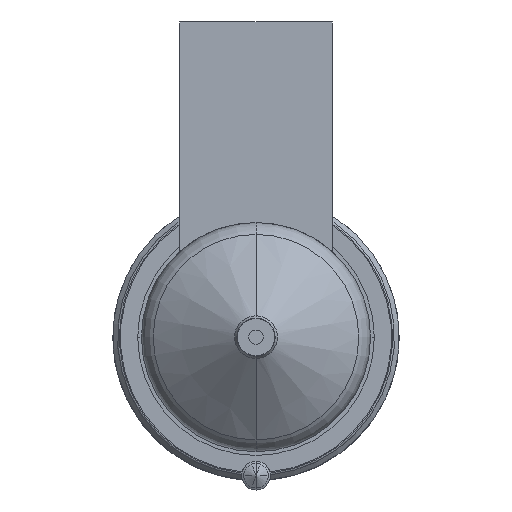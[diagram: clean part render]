
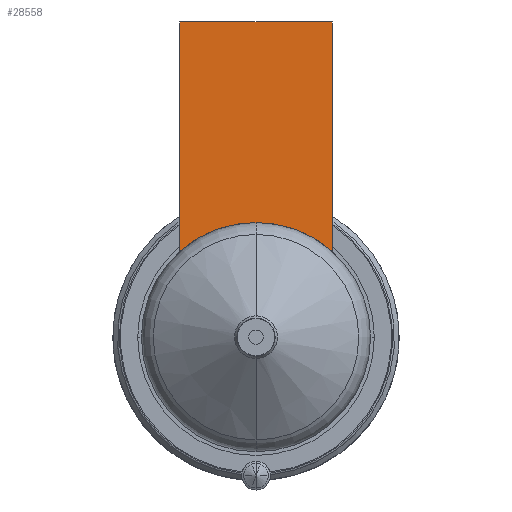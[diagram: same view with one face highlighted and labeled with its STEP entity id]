
A CAD part, front view. The second image highlights one B-rep face of the part: STEP entity #28558.
In plain terms, the highlighted planar face has unit normal (0, -1, 0).
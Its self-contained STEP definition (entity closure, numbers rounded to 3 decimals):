
#27868=DIRECTION('',(0.,0.,-1.));
#27869=VECTOR('',#27868,24.056);
#27870=CARTESIAN_POINT('',(-8.,-56.,33.));
#27871=LINE('',#27870,#27869);
#27908=DIRECTION('',(1.,0.,0.));
#27909=VECTOR('',#27908,16.);
#27910=CARTESIAN_POINT('',(-8.,-56.,33.));
#27911=LINE('',#27910,#27909);
#27915=CARTESIAN_POINT('',(0.,-56.,0.));
#27916=DIRECTION('',(0.,-1.,0.));
#27917=DIRECTION('',(0.667,0.,0.745));
#27918=AXIS2_PLACEMENT_3D('',#27915,#27916,#27917);
#27923=CARTESIAN_POINT('',(0.,-56.,0.));
#27924=DIRECTION('',(0.,-1.,0.));
#27925=DIRECTION('',(0.,0.,1.));
#27926=AXIS2_PLACEMENT_3D('',#27923,#27924,#27925);
#27959=DIRECTION('',(0.,0.,-1.));
#27960=VECTOR('',#27959,24.056);
#27961=CARTESIAN_POINT('',(8.,-56.,33.));
#27962=LINE('',#27961,#27960);
#28422=CARTESIAN_POINT('',(-8.,-56.,33.));
#28423=VERTEX_POINT('',#28422);
#28428=CARTESIAN_POINT('',(8.,-56.,33.));
#28429=VERTEX_POINT('',#28428);
#28432=CARTESIAN_POINT('',(-8.,-56.,8.944));
#28433=VERTEX_POINT('',#28432);
#28436=CARTESIAN_POINT('',(8.,-56.,8.944));
#28437=VERTEX_POINT('',#28436);
#28477=CARTESIAN_POINT('',(0.,-56.,12.));
#28478=VERTEX_POINT('',#28477);
#28543=CARTESIAN_POINT('',(-8.,-56.,33.));
#28544=DIRECTION('',(0.,-1.,0.));
#28545=DIRECTION('',(0.,0.,-1.));
#28546=AXIS2_PLACEMENT_3D('',#28543,#28544,#28545);
#28547=PLANE('',#28546);
#28548=ORIENTED_EDGE('',*,*,#28491,.F.);
#28550=ORIENTED_EDGE('',*,*,#28549,.T.);
#28552=ORIENTED_EDGE('',*,*,#28551,.T.);
#28554=ORIENTED_EDGE('',*,*,#28553,.T.);
#28555=ORIENTED_EDGE('',*,*,#28523,.T.);
#28556=EDGE_LOOP('',(#28548,#28550,#28552,#28554,#28555));
#28557=FACE_OUTER_BOUND('',#28556,.F.);
#28558=ADVANCED_FACE('',(#28557),#28547,.T.);
#27919=CIRCLE('',#27918,12.);
#27927=CIRCLE('',#27926,12.);
#28491=EDGE_CURVE('',#28423,#28433,#27871,.T.);
#28523=EDGE_CURVE('',#28478,#28433,#27927,.T.);
#28549=EDGE_CURVE('',#28423,#28429,#27911,.T.);
#28551=EDGE_CURVE('',#28429,#28437,#27962,.T.);
#28553=EDGE_CURVE('',#28437,#28478,#27919,.T.);
